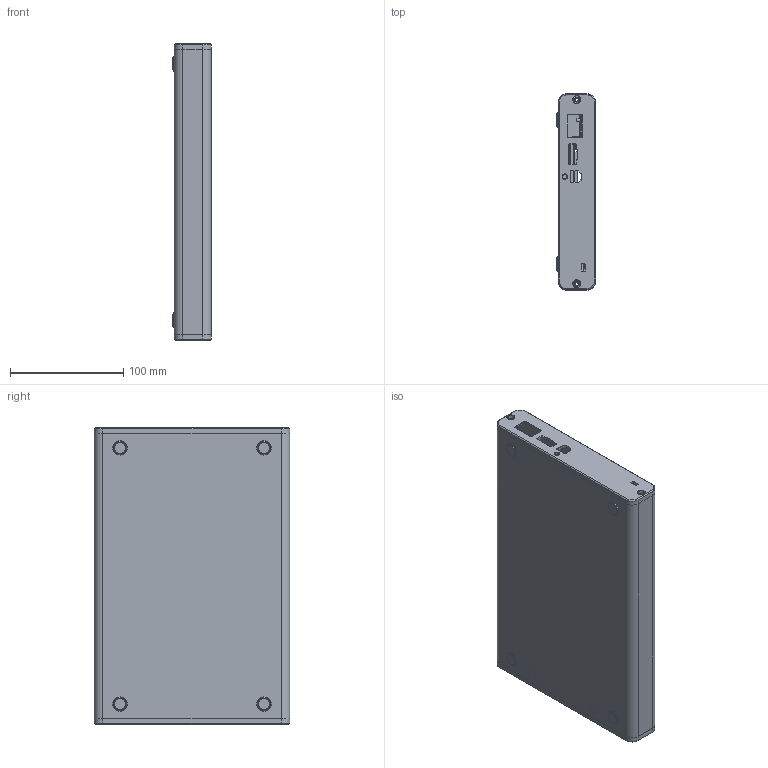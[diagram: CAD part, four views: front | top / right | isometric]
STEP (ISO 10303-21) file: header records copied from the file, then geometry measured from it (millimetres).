
FILE_DESCRIPTION((''),'2;1');
FILE_NAME('CU_ASSY_USB-X-SERIES-VER5','2010-08-30T',('dkendric'),(''),'PRO/ENGINEER BY PARAMETRIC TECHNOLOGY CORPORATION, 2006510','PRO/ENGINEER BY PARAMETRIC TECHNOLOGY CORPORATION, 2006510','');
FILE_SCHEMA(('CONFIG_CONTROL_DESIGN'));
Length unit declared in the file: inch
Products named in the file (1): CU_ASSY_USB-X-SERIES-VER5
Bounding box: 34.65 x 172.72 x 261.62 mm (x, y, z)
Volume: 396672.6 mm3; surface area: 251687.1 mm2
Topology: 2 solids, 2 shells, 1022 faces, 2563 edges, 1561 vertices
Faces by surface type: plane 428, cylinder 271, bspline 105, cone 93, extrusion 65, torus 44, sphere 16
Entity records: 39393 total; most frequent: CARTESIAN_POINT 15940, ORIENTED_EDGE 5046, DIRECTION 4460, EDGE_CURVE 2523, VERTEX_POINT 1599, AXIS2_PLACEMENT_3D 1507, VECTOR 1446, LINE 1381
